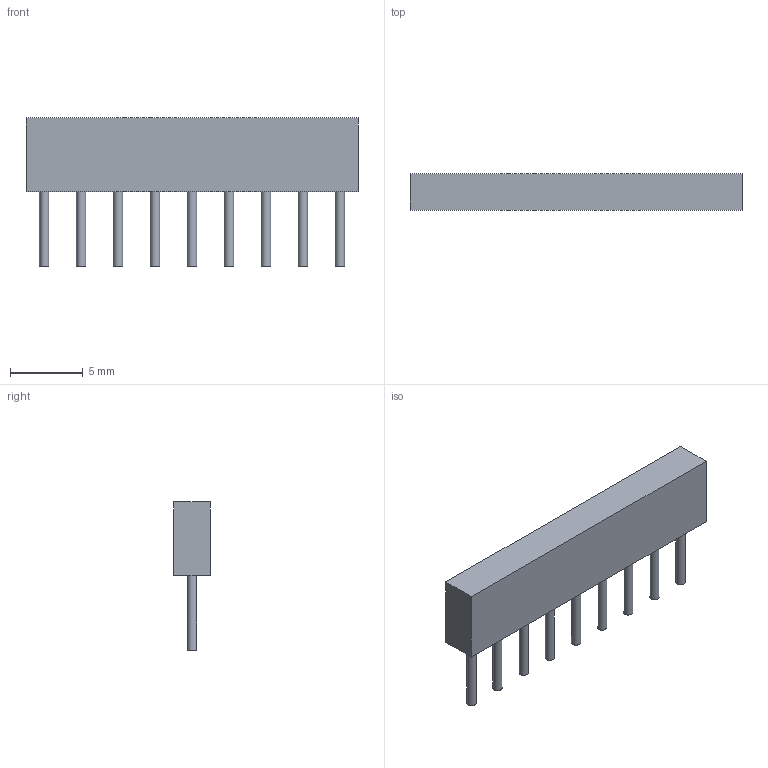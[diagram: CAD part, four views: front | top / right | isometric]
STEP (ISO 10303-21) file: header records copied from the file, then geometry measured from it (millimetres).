
FILE_DESCRIPTION(('FreeCAD Model'),'2;1');
FILE_NAME('/var/www/3D/0T/708624.1.3.stp','2020-04-09T06:56:01',( 'Author'),(''),'Open CASCADE STEP processor 6.9','FreeCAD','Unknown' );
FILE_SCHEMA(('AUTOMOTIVE_DESIGN { 1 0 10303 214 1 1 1 1 }'));
Length unit declared in the file: millimetre
Products named in the file (3): ASSEMBLY; Body; Leads
Assembly tree (10 placements, depth 2):
  ASSEMBLY
    Body
    Leads  x9
Bounding box: 22.81 x 2.49 x 10.18 mm (x, y, z)
Volume: 421.4 mm3; surface area: 1253.3 mm2
Topology: 82 solids, 82 shells, 249 faces, 255 edges, 170 vertices
Faces by surface type: plane 168, cylinder 81
Full cylindrical faces by diameter (mm): 0.64 x81
Entity records: 1344 total; most frequent: DIRECTION 223, CARTESIAN_POINT 187, LINE 81, VECTOR 81, ORIENTED_EDGE 78, PCURVE 78, DEFINITIONAL_REPRESENTATION 78, AXIS2_PLACEMENT_3D 62
